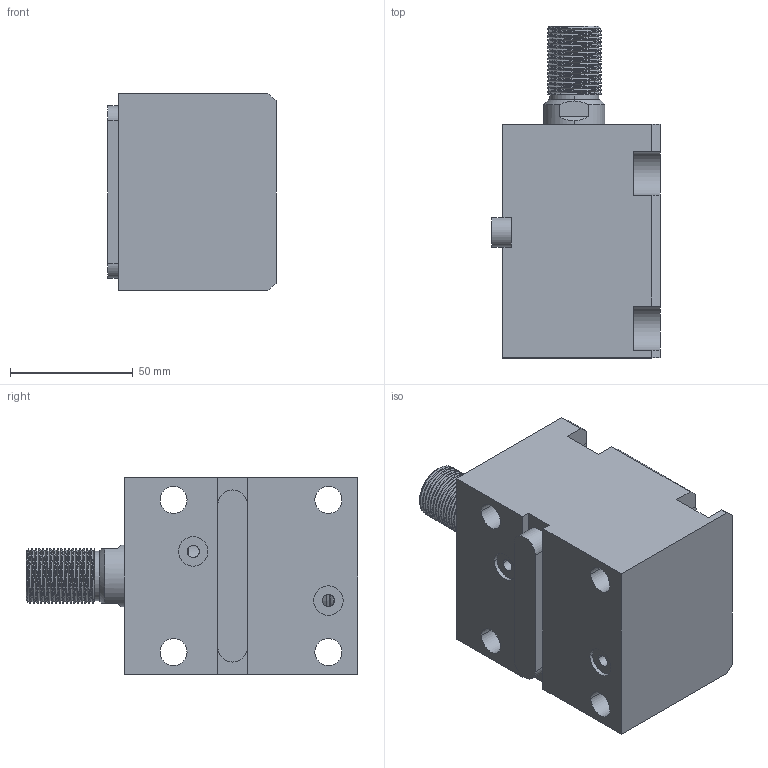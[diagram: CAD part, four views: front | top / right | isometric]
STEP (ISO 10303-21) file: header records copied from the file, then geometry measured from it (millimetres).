
FILE_DESCRIPTION (( 'STEP AP214' ), '1' );
FILE_NAME ('chtb-lam40x40w_asm.STEP', '2018-05-30T06:44:51', ( 'Windows' ), ( 'Microsoft' ), 'SwSTEP 2.0', 'SolidWorks 2015', '' );
FILE_SCHEMA (( 'AUTOMOTIVE_DESIGN' ));
Length unit declared in the file: millimetre
Products named in the file (5): CHTB-LAM40X40NBT; CHTB-LA40PJ; chtb-lam40x40w_asm; CHTB-SD40X40WHSG; CHTB-SD40QG
Assembly tree (4 placements, depth 2):
  chtb-lam40x40w_asm
    CHTB-LA40PJ
    CHTB-LAM40X40NBT
    CHTB-SD40QG
    CHTB-SD40X40WHSG
Bounding box: 68.5 x 135 x 80 mm (x, y, z)
Volume: 436648.7 mm3; surface area: 85941.1 mm2
Topology: 4 solids, 5 shells, 199 faces, 547 edges, 365 vertices
Faces by surface type: cylinder 111, plane 50, bspline 16, torus 12, cone 10
Entity records: 13609 total; most frequent: CARTESIAN_POINT 8674, ORIENTED_EDGE 1082, DIRECTION 894, EDGE_CURVE 541, VERTEX_POINT 365, AXIS2_PLACEMENT_3D 349, EDGE_LOOP 226, FACE_OUTER_BOUND 199
